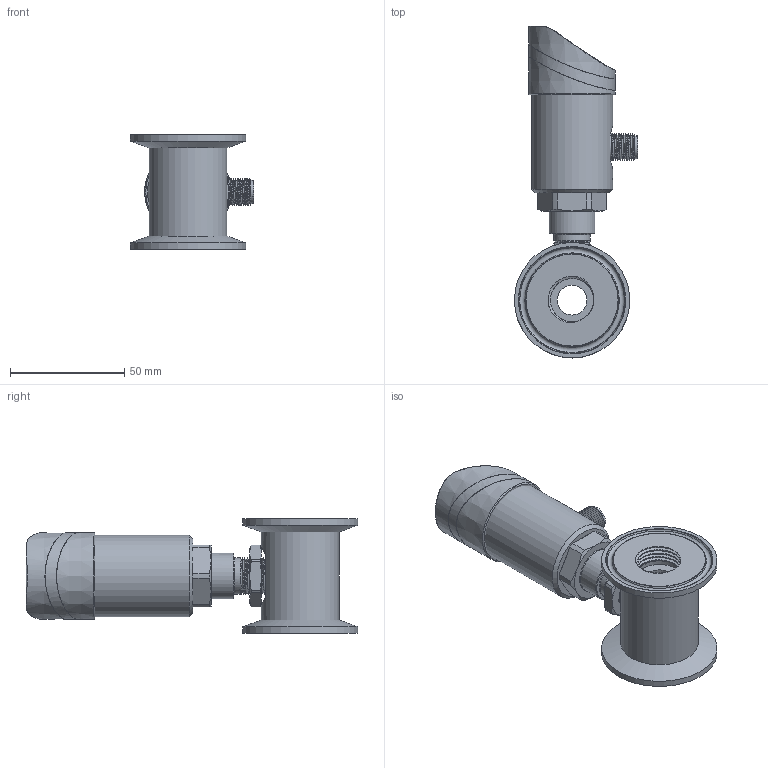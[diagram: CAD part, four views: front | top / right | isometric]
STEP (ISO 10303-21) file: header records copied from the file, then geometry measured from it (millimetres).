
FILE_DESCRIPTION( (''), '2;1');
FILE_NAME( 'QTKE_DN12_tri-clamp.step', '2024-10-15T08:24:08+08:00', (''), (''), '', '', '');
FILE_SCHEMA (('AUTOMOTIVE_DESIGN { 1 0 10303 214 3 1 1 1 }'));
Length unit declared in the file: millimetre
Products named in the file (1): QTKE DN12_tri-clamp
Bounding box: 53.93 x 145.25 x 50 mm (x, y, z)
Volume: 106664.8 mm3; surface area: 41718.9 mm2
Topology: 5 solids, 6 shells, 733 faces, 1896 edges, 1237 vertices
Faces by surface type: plane 269, extrusion 141, cylinder 135, cone 77, bspline 62, torus 38, sphere 11
Full cylindrical faces by diameter (mm): 1.689 x1, 2.7 x3, 12 x1, 13 x1, 15.9 x1, 16.5 x1, 17 x1, 20 x1, 21 x2, 23 x3, 26 x5, 34 x1, 35.5 x1, 37.001 x1, 50.5 x2
Entity records: 35452 total; most frequent: CARTESIAN_POINT 17353, ORIENTED_EDGE 3582, DIRECTION 2849, EDGE_CURVE 1791, VERTEX_POINT 1200, VECTOR 951, AXIS2_PLACEMENT_3D 949, EDGE_LOOP 869
